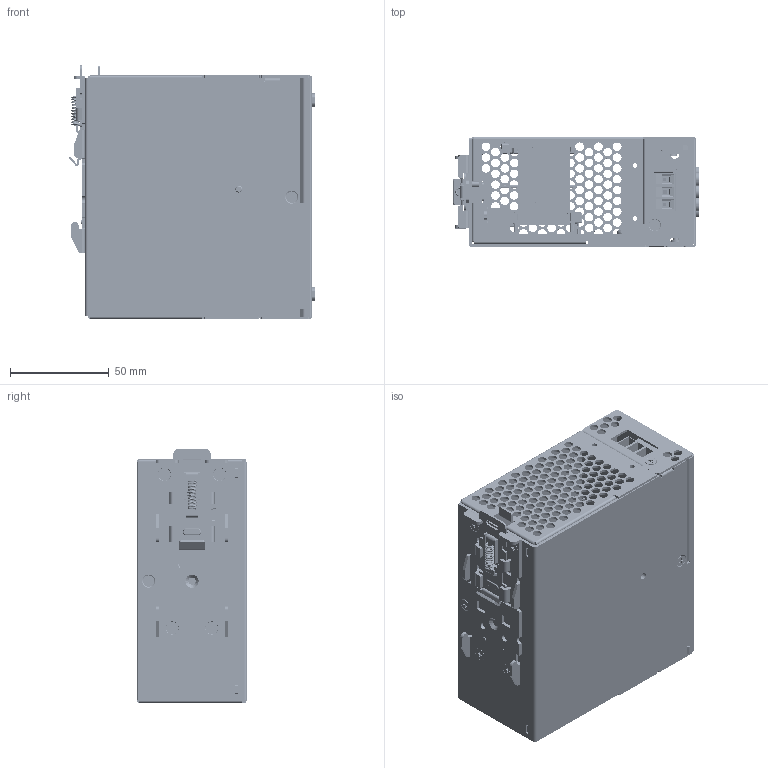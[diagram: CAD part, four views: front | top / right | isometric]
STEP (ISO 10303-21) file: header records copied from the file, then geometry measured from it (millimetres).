
FILE_DESCRIPTION((''),'2;1');
FILE_NAME('480W-ASM_ASM','2021-08-16T',('JOSH.LEE'),(''),'PRO/ENGINEER BY PARAMETRIC TECHNOLOGY CORPORATION, 2015240','PRO/ENGINEER BY PARAMETRIC TECHNOLOGY CORPORATION, 2015240','');
FILE_SCHEMA(('AUTOMOTIVE_DESIGN { 1 0 10303 214 1 1 1 1 }'));
Products named in the file (37): 480W-CHASSIS-SHEETMETAL; 480W-STANDOFF; 480W-COVER-AL; 346654410101; 346008810000; 346202620000; BRACKET_3486195900_ASM; 480W-INSULATOR; SCREW-FLAT-6-32; SCREW-FLAT-L5; 480W-CASE-ASM_ASM; 480W-PWB-MAIN; 480W-MAIN-LAYOUT; 480W-SMALL-PWB; 480W-SMALL-LAYOUT; 480W-MAIN-PWB-PART; 480W-VR131; 480W-LED; 480W_NM02100A000G; PAN-SCREW_6-32; 480W-EDC-PWB-PART; 480W_BD1; 480W-PWB-TM901_3352090900; 518-EQ3541-7P00_4; EQ3541-CORE_2; T1_ASM; 480W-MOS; 480W_CLIP_3469218300; 480W-CLIP-3421226700; 480W-EE-PARTS-ASM_ASM; 480W-BD1-HSK; FLAT-PIN; 480W-BD1-HSK_ASM; KP03; KP04; 480W-PWB-ASM_ASM; 480W-ASM_ASM
Assembly tree (50 placements, depth 5):
  480W-ASM_ASM
    480W-CASE-ASM_ASM
      480W-CHASSIS-SHEETMETAL
      480W-STANDOFF
      480W-COVER-AL
      BRACKET_3486195900_ASM
        346654410101
        346008810000
        346202620000
      480W-INSULATOR
      SCREW-FLAT-6-32  x4
      SCREW-FLAT-L5  x7
    480W-PWB-ASM_ASM
      480W-PWB-MAIN
      480W-MAIN-LAYOUT
      480W-SMALL-PWB
      480W-SMALL-LAYOUT
      480W-EE-PARTS-ASM_ASM
        480W-MAIN-PWB-PART
        480W-VR131
        480W-LED
        480W_NM02100A000G
        PAN-SCREW_6-32
        480W-EDC-PWB-PART
        480W_BD1
        480W-PWB-TM901_3352090900  x2
        T1_ASM
          518-EQ3541-7P00_4
          EQ3541-CORE_2  x2
        480W-MOS  x3
        480W_CLIP_3469218300
        480W-CLIP-3421226700
      480W-BD1-HSK_ASM
        480W-BD1-HSK
        FLAT-PIN  x2
      KP03
      KP04
Bounding box: 125.14 x 56 x 128.8 mm (x, y, z)
Volume: 154212.8 mm3; surface area: 235649 mm2
Topology: 50 solids, 50 shells, 6705 faces, 18375 edges, 11615 vertices
Faces by surface type: plane 3598, cylinder 2433, torus 211, bspline 168, sphere 147, cone 144, extrusion 4
Entity records: 269413 total; most frequent: CARTESIAN_POINT 61233, ORIENTED_EDGE 34448, DIRECTION 33888, EDGE_CURVE 17224, PRESENTATION_STYLE_ASSIGNMENT 14273, STYLED_ITEM 14273, CURVE_STYLE 14236, AXIS2_PLACEMENT_3D 11426
